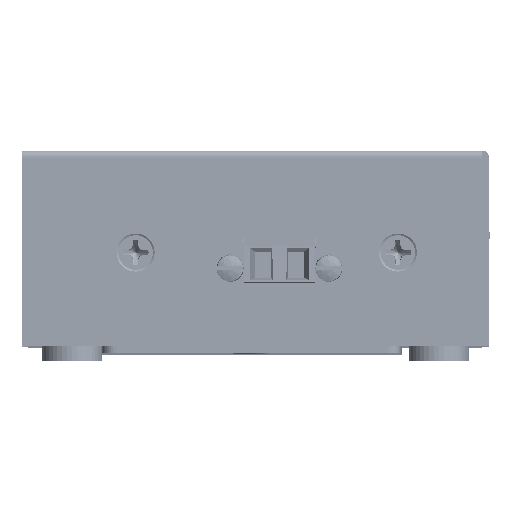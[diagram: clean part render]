
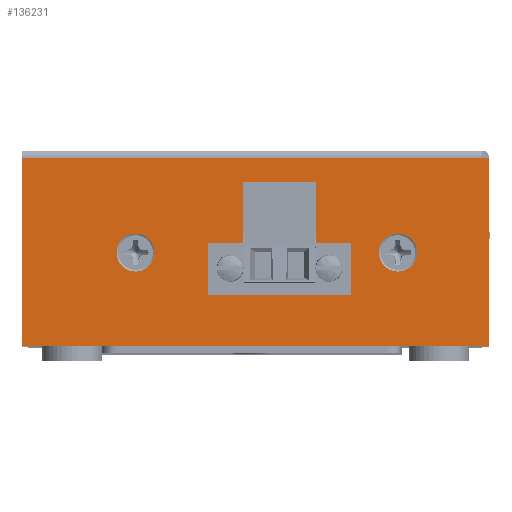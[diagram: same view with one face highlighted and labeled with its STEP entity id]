
A CAD part, top view. The second image highlights one B-rep face of the part: STEP entity #136231.
In plain terms, the highlighted planar face has unit normal (0, 0, 1).
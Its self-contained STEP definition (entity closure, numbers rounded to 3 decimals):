
#2024=FACE_BOUND('',#17035,.T.);
#2025=FACE_BOUND('',#17036,.T.);
#2026=FACE_BOUND('',#17037,.T.);
#2698=PLANE('',#144103);
#9763=FACE_OUTER_BOUND('',#17034,.T.);
#17034=EDGE_LOOP('',(#95179,#95180,#95181,#95182,#95183));
#17035=EDGE_LOOP('',(#95184));
#17036=EDGE_LOOP('',(#95185));
#17037=EDGE_LOOP('',(#95186,#95187,#95188,#95189,#95190,#95191,#95192,#95193));
#24844=LINE('',#193381,#41384);
#24849=LINE('',#193391,#41389);
#24853=LINE('',#193399,#41393);
#24856=LINE('',#193405,#41396);
#24859=LINE('',#193411,#41399);
#24862=LINE('',#193417,#41402);
#24865=LINE('',#193423,#41405);
#24868=LINE('',#193429,#41408);
#24871=LINE('',#193434,#41411);
#24957=LINE('',#193646,#41497);
#24960=LINE('',#193653,#41500);
#24972=LINE('',#193684,#41512);
#24976=LINE('',#193692,#41516);
#41384=VECTOR('',#154990,10.);
#41389=VECTOR('',#154999,10.);
#41393=VECTOR('',#155005,10.);
#41396=VECTOR('',#155010,10.);
#41399=VECTOR('',#155015,10.);
#41402=VECTOR('',#155020,10.);
#41405=VECTOR('',#155025,10.);
#41408=VECTOR('',#155030,10.);
#41411=VECTOR('',#155035,10.);
#41497=VECTOR('',#155237,10.);
#41500=VECTOR('',#155244,10.);
#41512=VECTOR('',#155282,0.365);
#41516=VECTOR('',#155294,10.);
#57911=CIRCLE('',#144006,2.75);
#57914=CIRCLE('',#144011,2.75);
#60852=VERTEX_POINT('',#193357);
#60855=VERTEX_POINT('',#193367);
#60859=VERTEX_POINT('',#193378);
#60860=VERTEX_POINT('',#193380);
#60862=VERTEX_POINT('',#193389);
#60863=VERTEX_POINT('',#193390);
#60866=VERTEX_POINT('',#193398);
#60868=VERTEX_POINT('',#193404);
#60870=VERTEX_POINT('',#193410);
#60872=VERTEX_POINT('',#193416);
#60874=VERTEX_POINT('',#193422);
#60876=VERTEX_POINT('',#193428);
#60944=VERTEX_POINT('',#193640);
#60947=VERTEX_POINT('',#193651);
#60953=VERTEX_POINT('',#193682);
#74216=EDGE_CURVE('',#60852,#60852,#57911,.T.);
#74221=EDGE_CURVE('',#60855,#60855,#57914,.T.);
#74227=EDGE_CURVE('',#60859,#60860,#24844,.T.);
#74232=EDGE_CURVE('',#60862,#60863,#24849,.T.);
#74236=EDGE_CURVE('',#60866,#60862,#24853,.T.);
#74239=EDGE_CURVE('',#60868,#60866,#24856,.T.);
#74242=EDGE_CURVE('',#60870,#60868,#24859,.T.);
#74245=EDGE_CURVE('',#60872,#60870,#24862,.T.);
#74248=EDGE_CURVE('',#60874,#60872,#24865,.T.);
#74251=EDGE_CURVE('',#60876,#60874,#24868,.T.);
#74254=EDGE_CURVE('',#60863,#60876,#24871,.T.);
#74360=EDGE_CURVE('',#60859,#60944,#24957,.T.);
#74364=EDGE_CURVE('',#60944,#60947,#24960,.T.);
#74380=EDGE_CURVE('',#60947,#60953,#24972,.T.);
#74385=EDGE_CURVE('',#60953,#60860,#24976,.T.);
#95179=ORIENTED_EDGE('',*,*,#74360,.T.);
#95180=ORIENTED_EDGE('',*,*,#74364,.T.);
#95181=ORIENTED_EDGE('',*,*,#74380,.T.);
#95182=ORIENTED_EDGE('',*,*,#74385,.T.);
#95183=ORIENTED_EDGE('',*,*,#74227,.F.);
#95184=ORIENTED_EDGE('',*,*,#74216,.T.);
#95185=ORIENTED_EDGE('',*,*,#74221,.T.);
#95186=ORIENTED_EDGE('',*,*,#74232,.T.);
#95187=ORIENTED_EDGE('',*,*,#74254,.T.);
#95188=ORIENTED_EDGE('',*,*,#74251,.T.);
#95189=ORIENTED_EDGE('',*,*,#74248,.T.);
#95190=ORIENTED_EDGE('',*,*,#74245,.T.);
#95191=ORIENTED_EDGE('',*,*,#74242,.T.);
#95192=ORIENTED_EDGE('',*,*,#74239,.T.);
#95193=ORIENTED_EDGE('',*,*,#74236,.T.);
#136231=ADVANCED_FACE('',(#9763,#2024,#2025,#2026),#2698,.T.);
#144006=AXIS2_PLACEMENT_3D('',#193358,#154965,#154966);
#144011=AXIS2_PLACEMENT_3D('',#193368,#154977,#154978);
#144103=AXIS2_PLACEMENT_3D('',#193694,#155297,#155298);
#154965=DIRECTION('center_axis',(0.,0.,-1.));
#154966=DIRECTION('ref_axis',(1.,0.,0.));
#154977=DIRECTION('center_axis',(0.,0.,-1.));
#154978=DIRECTION('ref_axis',(1.,0.,0.));
#154990=DIRECTION('',(0.,-1.,0.));
#154999=DIRECTION('',(0.,1.,0.));
#155005=DIRECTION('',(1.,0.,0.));
#155010=DIRECTION('',(0.,1.,0.));
#155015=DIRECTION('',(-1.,0.,0.));
#155020=DIRECTION('',(0.,-1.,0.));
#155025=DIRECTION('',(1.,0.,0.));
#155030=DIRECTION('',(0.,-1.,0.));
#155035=DIRECTION('',(1.,0.,0.));
#155237=DIRECTION('',(-1.,0.,0.));
#155244=DIRECTION('',(-1.,0.,0.));
#155282=DIRECTION('',(0.,-1.,0.));
#155294=DIRECTION('',(1.,0.,0.));
#155297=DIRECTION('center_axis',(0.,0.,1.));
#155298=DIRECTION('ref_axis',(0.,-1.,0.));
#193357=CARTESIAN_POINT('',(49.295,7.52,3.585));
#193358=CARTESIAN_POINT('Origin',(52.045,7.52,3.585));
#193367=CARTESIAN_POINT('',(11.425,7.52,3.585));
#193368=CARTESIAN_POINT('Origin',(14.175,7.52,3.585));
#193378=CARTESIAN_POINT('',(65.225,21.24,3.585));
#193380=CARTESIAN_POINT('',(65.225,-5.95,3.585));
#193381=CARTESIAN_POINT('',(65.225,21.24,3.585));
#193389=CARTESIAN_POINT('',(29.7,8.87,3.585));
#193390=CARTESIAN_POINT('',(29.7,17.75,3.585));
#193391=CARTESIAN_POINT('',(29.7,8.401,3.585));
#193398=CARTESIAN_POINT('',(24.575,8.87,3.585));
#193399=CARTESIAN_POINT('',(27.788,8.87,3.585));
#193404=CARTESIAN_POINT('',(24.575,1.37,3.585));
#193405=CARTESIAN_POINT('',(24.575,4.651,3.585));
#193410=CARTESIAN_POINT('',(45.275,1.37,3.585));
#193411=CARTESIAN_POINT('',(38.138,1.37,3.585));
#193416=CARTESIAN_POINT('',(45.275,8.87,3.585));
#193417=CARTESIAN_POINT('',(45.275,8.401,3.585));
#193422=CARTESIAN_POINT('',(40.15,8.87,3.585));
#193423=CARTESIAN_POINT('',(35.575,8.87,3.585));
#193428=CARTESIAN_POINT('',(40.15,17.75,3.585));
#193429=CARTESIAN_POINT('',(40.15,12.841,3.585));
#193434=CARTESIAN_POINT('',(30.35,17.75,3.585));
#193640=CARTESIAN_POINT('',(64.215,21.24,3.585));
#193646=CARTESIAN_POINT('',(31.,21.24,3.585));
#193651=CARTESIAN_POINT('',(-2.225,21.24,3.585));
#193653=CARTESIAN_POINT('',(31.,21.24,3.585));
#193682=CARTESIAN_POINT('',(-2.225,-5.95,3.585));
#193684=CARTESIAN_POINT('',(-2.225,22.387,3.585));
#193692=CARTESIAN_POINT('',(64.225,-5.95,3.585));
#193694=CARTESIAN_POINT('Origin',(31.,7.932,3.585));
